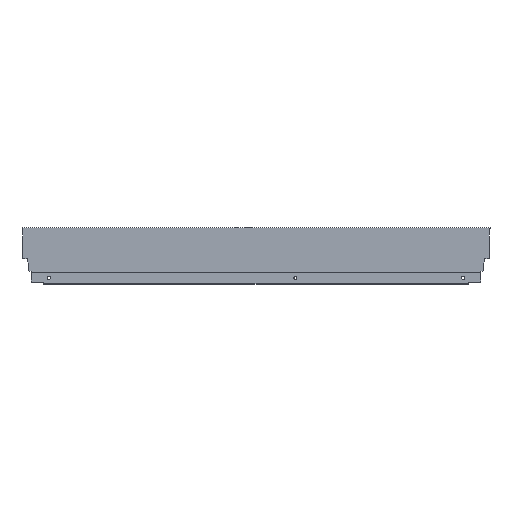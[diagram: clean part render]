
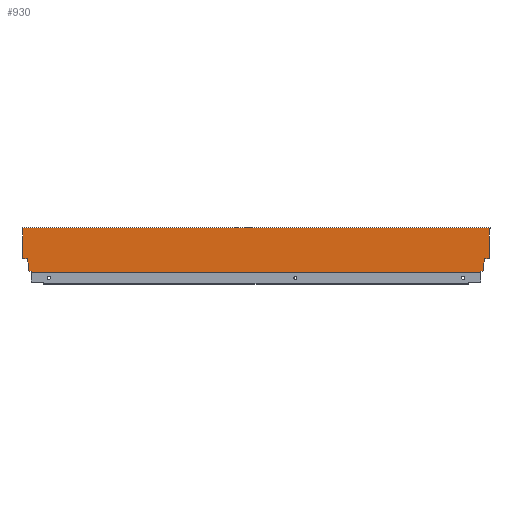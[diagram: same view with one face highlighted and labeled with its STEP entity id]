
A CAD part, top view. The second image highlights one B-rep face of the part: STEP entity #930.
In plain terms, the highlighted planar face has unit normal (0, 0, 1).
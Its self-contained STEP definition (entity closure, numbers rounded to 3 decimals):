
#9 = LINE ( 'NONE', #1079, #17 ) ;
#17 = VECTOR ( 'NONE', #1091, 1000. ) ;
#80 = EDGE_LOOP ( 'NONE', ( #335, #422, #102, #354, #334, #360, #273, #340, #346, #343, #347, #363, #374, #384, #344, #333, #394, #366 ) ) ;
#102 = ORIENTED_EDGE ( 'NONE', *, *, #562, .T. ) ;
#273 = ORIENTED_EDGE ( 'NONE', *, *, #556, .F. ) ;
#333 = ORIENTED_EDGE ( 'NONE', *, *, #457, .F. ) ;
#334 = ORIENTED_EDGE ( 'NONE', *, *, #560, .F. ) ;
#335 = ORIENTED_EDGE ( 'NONE', *, *, #558, .F. ) ;
#340 = ORIENTED_EDGE ( 'NONE', *, *, #559, .F. ) ;
#343 = ORIENTED_EDGE ( 'NONE', *, *, #564, .T. ) ;
#344 = ORIENTED_EDGE ( 'NONE', *, *, #553, .F. ) ;
#346 = ORIENTED_EDGE ( 'NONE', *, *, #554, .F. ) ;
#347 = ORIENTED_EDGE ( 'NONE', *, *, #552, .F. ) ;
#354 = ORIENTED_EDGE ( 'NONE', *, *, #561, .T. ) ;
#360 = ORIENTED_EDGE ( 'NONE', *, *, #567, .F. ) ;
#363 = ORIENTED_EDGE ( 'NONE', *, *, #550, .F. ) ;
#366 = ORIENTED_EDGE ( 'NONE', *, *, #549, .F. ) ;
#374 = ORIENTED_EDGE ( 'NONE', *, *, #557, .F. ) ;
#384 = ORIENTED_EDGE ( 'NONE', *, *, #555, .F. ) ;
#394 = ORIENTED_EDGE ( 'NONE', *, *, #551, .F. ) ;
#422 = ORIENTED_EDGE ( 'NONE', *, *, #563, .F. ) ;
#457 = EDGE_CURVE ( 'NONE', #1672, #1676, #9, .T. ) ;
#549 = EDGE_CURVE ( 'NONE', #969, #1016, #747, .T. ) ;
#550 = EDGE_CURVE ( 'NONE', #978, #1664, #745, .T. ) ;
#551 = EDGE_CURVE ( 'NONE', #1016, #1672, #743, .T. ) ;
#552 = EDGE_CURVE ( 'NONE', #1664, #976, #741, .T. ) ;
#553 = EDGE_CURVE ( 'NONE', #1676, #968, #739, .T. ) ;
#554 = EDGE_CURVE ( 'NONE', #1641, #1660, #737, .T. ) ;
#555 = EDGE_CURVE ( 'NONE', #968, #970, #735, .T. ) ;
#556 = EDGE_CURVE ( 'NONE', #1645, #971, #733, .T. ) ;
#557 = EDGE_CURVE ( 'NONE', #970, #978, #731, .T. ) ;
#558 = EDGE_CURVE ( 'NONE', #984, #969, #729, .T. ) ;
#559 = EDGE_CURVE ( 'NONE', #1660, #1645, #809, .T. ) ;
#560 = EDGE_CURVE ( 'NONE', #1648, #989, #725, .T. ) ;
#561 = EDGE_CURVE ( 'NONE', #973, #989, #724, .T. ) ;
#562 = EDGE_CURVE ( 'NONE', #1661, #973, #754, .T. ) ;
#563 = EDGE_CURVE ( 'NONE', #1661, #984, #719, .T. ) ;
#564 = EDGE_CURVE ( 'NONE', #1641, #976, #717, .T. ) ;
#567 = EDGE_CURVE ( 'NONE', #971, #1648, #726, .T. ) ;
#601 = AXIS2_PLACEMENT_3D ( 'NONE', #1402, #1408, #1409 ) ;
#679 = FACE_OUTER_BOUND ( 'NONE', #80, .T. ) ;
#716 = VECTOR ( 'NONE', #1313, 1000. ) ;
#717 = LINE ( 'NONE', #1312, #716 ) ;
#718 = VECTOR ( 'NONE', #1311, 1000. ) ;
#719 = LINE ( 'NONE', #1310, #718 ) ;
#721 = VECTOR ( 'NONE', #1309, 1000. ) ;
#722 = VECTOR ( 'NONE', #1304, 1000. ) ;
#723 = VECTOR ( 'NONE', #1307, 1000. ) ;
#724 = LINE ( 'NONE', #1306, #723 ) ;
#725 = LINE ( 'NONE', #1303, #722 ) ;
#726 = LINE ( 'NONE', #1319, #752 ) ;
#727 = VECTOR ( 'NONE', #1302, 1000. ) ;
#728 = VECTOR ( 'NONE', #1300, 1000. ) ;
#729 = LINE ( 'NONE', #1299, #728 ) ;
#730 = VECTOR ( 'NONE', #1298, 1000. ) ;
#731 = LINE ( 'NONE', #1297, #730 ) ;
#732 = VECTOR ( 'NONE', #1296, 1000. ) ;
#733 = LINE ( 'NONE', #1295, #732 ) ;
#734 = VECTOR ( 'NONE', #1294, 1000. ) ;
#735 = LINE ( 'NONE', #1293, #734 ) ;
#736 = VECTOR ( 'NONE', #1292, 1000. ) ;
#737 = LINE ( 'NONE', #1291, #736 ) ;
#738 = VECTOR ( 'NONE', #1290, 1000. ) ;
#739 = LINE ( 'NONE', #1289, #738 ) ;
#740 = VECTOR ( 'NONE', #1288, 1000. ) ;
#741 = LINE ( 'NONE', #1287, #740 ) ;
#742 = VECTOR ( 'NONE', #1286, 1000. ) ;
#743 = LINE ( 'NONE', #1285, #742 ) ;
#744 = VECTOR ( 'NONE', #1284, 1000. ) ;
#745 = LINE ( 'NONE', #1283, #744 ) ;
#746 = VECTOR ( 'NONE', #1282, 1000. ) ;
#747 = LINE ( 'NONE', #1281, #746 ) ;
#752 = VECTOR ( 'NONE', #1320, 1000. ) ;
#754 = LINE ( 'NONE', #1301, #721 ) ;
#809 = LINE ( 'NONE', #1275, #727 ) ;
#930 = ADVANCED_FACE ( 'NONE', ( #679 ), #1385, .T. ) ;
#968 = VERTEX_POINT ( 'NONE', #1517 ) ;
#969 = VERTEX_POINT ( 'NONE', #1529 ) ;
#970 = VERTEX_POINT ( 'NONE', #1530 ) ;
#971 = VERTEX_POINT ( 'NONE', #1531 ) ;
#973 = VERTEX_POINT ( 'NONE', #1527 ) ;
#976 = VERTEX_POINT ( 'NONE', #1535 ) ;
#978 = VERTEX_POINT ( 'NONE', #1537 ) ;
#984 = VERTEX_POINT ( 'NONE', #1543 ) ;
#989 = VERTEX_POINT ( 'NONE', #1548 ) ;
#1016 = VERTEX_POINT ( 'NONE', #1575 ) ;
#1079 = CARTESIAN_POINT ( 'NONE',  ( 0., 0., 7.5 ) ) ;
#1091 = DIRECTION ( 'NONE',  ( 0., -1., 0. ) ) ;
#1275 = CARTESIAN_POINT ( 'NONE',  ( -702.1, 2.64, 7.5 ) ) ;
#1281 = CARTESIAN_POINT ( 'NONE',  ( 1., 68., 7.5 ) ) ;
#1282 = DIRECTION ( 'NONE',  ( 0., -1., 0. ) ) ;
#1283 = CARTESIAN_POINT ( 'NONE',  ( -8.9, 2.64, 7.5 ) ) ;
#1284 = DIRECTION ( 'NONE',  ( -0.94, -0.342, 0. ) ) ;
#1285 = CARTESIAN_POINT ( 'NONE',  ( 1., 66.5, 7.5 ) ) ;
#1286 = DIRECTION ( 'NONE',  ( -1., 0., 0. ) ) ;
#1287 = CARTESIAN_POINT ( 'NONE',  ( -13.004, 1.146, 7.5 ) ) ;
#1288 = DIRECTION ( 'NONE',  ( 0., -1., 0. ) ) ;
#1289 = CARTESIAN_POINT ( 'NONE',  ( 0., 21.2, 7.5 ) ) ;
#1290 = DIRECTION ( 'NONE',  ( -1., 0., 0. ) ) ;
#1291 = CARTESIAN_POINT ( 'NONE',  ( -697.996, 1.146, 7.5 ) ) ;
#1292 = DIRECTION ( 'NONE',  ( 0., 1., 0. ) ) ;
#1293 = CARTESIAN_POINT ( 'NONE',  ( -7.06, 21.2, 7.5 ) ) ;
#1294 = DIRECTION ( 'NONE',  ( -0.174, -0.985, 0. ) ) ;
#1295 = CARTESIAN_POINT ( 'NONE',  ( -702.1, 10.765, 7.5 ) ) ;
#1296 = DIRECTION ( 'NONE',  ( 0., 1., 0. ) ) ;
#1297 = CARTESIAN_POINT ( 'NONE',  ( -8.9, 10.765, 7.5 ) ) ;
#1298 = DIRECTION ( 'NONE',  ( 0., -1., 0. ) ) ;
#1299 = CARTESIAN_POINT ( 'NONE',  ( -711., 68., 7.5 ) ) ;
#1300 = DIRECTION ( 'NONE',  ( 1., 0., 0. ) ) ;
#1301 = CARTESIAN_POINT ( 'NONE',  ( -712., 66.5, 7.5 ) ) ;
#1302 = DIRECTION ( 'NONE',  ( -0.94, 0.342, 0. ) ) ;
#1303 = CARTESIAN_POINT ( 'NONE',  ( -716., 21.2, 7.5 ) ) ;
#1304 = DIRECTION ( 'NONE',  ( -1., 0., 0. ) ) ;
#1306 = CARTESIAN_POINT ( 'NONE',  ( -711., 0., 7.5 ) ) ;
#1307 = DIRECTION ( 'NONE',  ( 0., -1., 0. ) ) ;
#1309 = DIRECTION ( 'NONE',  ( 1., 0., 0. ) ) ;
#1310 = CARTESIAN_POINT ( 'NONE',  ( -712., 66.5, 7.5 ) ) ;
#1311 = DIRECTION ( 'NONE',  ( 0., 1., 0. ) ) ;
#1312 = CARTESIAN_POINT ( 'NONE',  ( -711., 0., 7.5 ) ) ;
#1313 = DIRECTION ( 'NONE',  ( 1., 0., 0. ) ) ;
#1319 = CARTESIAN_POINT ( 'NONE',  ( -703.94, 21.2, 7.5 ) ) ;
#1320 = DIRECTION ( 'NONE',  ( -0.174, 0.985, 0. ) ) ;
#1385 = PLANE ( 'NONE',  #601 ) ;
#1402 = CARTESIAN_POINT ( 'NONE',  ( -711., 0., 7.5 ) ) ;
#1408 = DIRECTION ( 'NONE',  ( 0., 0., 1. ) ) ;
#1409 = DIRECTION ( 'NONE',  ( 1., 0., 0. ) ) ;
#1517 = CARTESIAN_POINT ( 'NONE',  ( -7.06, 21.2, 7.5 ) ) ;
#1527 = CARTESIAN_POINT ( 'NONE',  ( -711., 66.5, 7.5 ) ) ;
#1529 = CARTESIAN_POINT ( 'NONE',  ( 1., 68., 7.5 ) ) ;
#1530 = CARTESIAN_POINT ( 'NONE',  ( -8.9, 10.765, 7.5 ) ) ;
#1531 = CARTESIAN_POINT ( 'NONE',  ( -702.1, 10.765, 7.5 ) ) ;
#1535 = CARTESIAN_POINT ( 'NONE',  ( -13.004, 0., 7.5 ) ) ;
#1537 = CARTESIAN_POINT ( 'NONE',  ( -8.9, 2.64, 7.5 ) ) ;
#1543 = CARTESIAN_POINT ( 'NONE',  ( -712., 68., 7.5 ) ) ;
#1548 = CARTESIAN_POINT ( 'NONE',  ( -711., 21.2, 7.5 ) ) ;
#1575 = CARTESIAN_POINT ( 'NONE',  ( 1., 66.5, 7.5 ) ) ;
#1586 = CARTESIAN_POINT ( 'NONE',  ( -697.996, 0., 7.5 ) ) ;
#1590 = CARTESIAN_POINT ( 'NONE',  ( -702.1, 2.64, 7.5 ) ) ;
#1593 = CARTESIAN_POINT ( 'NONE',  ( -703.94, 21.2, 7.5 ) ) ;
#1605 = CARTESIAN_POINT ( 'NONE',  ( -697.996, 1.146, 7.5 ) ) ;
#1606 = CARTESIAN_POINT ( 'NONE',  ( -712., 66.5, 7.5 ) ) ;
#1609 = CARTESIAN_POINT ( 'NONE',  ( -13.004, 1.146, 7.5 ) ) ;
#1613 = CARTESIAN_POINT ( 'NONE',  ( 0., 66.5, 7.5 ) ) ;
#1617 = CARTESIAN_POINT ( 'NONE',  ( 0., 21.2, 7.5 ) ) ;
#1641 = VERTEX_POINT ( 'NONE', #1586 ) ;
#1645 = VERTEX_POINT ( 'NONE', #1590 ) ;
#1648 = VERTEX_POINT ( 'NONE', #1593 ) ;
#1660 = VERTEX_POINT ( 'NONE', #1605 ) ;
#1661 = VERTEX_POINT ( 'NONE', #1606 ) ;
#1664 = VERTEX_POINT ( 'NONE', #1609 ) ;
#1672 = VERTEX_POINT ( 'NONE', #1613 ) ;
#1676 = VERTEX_POINT ( 'NONE', #1617 ) ;
